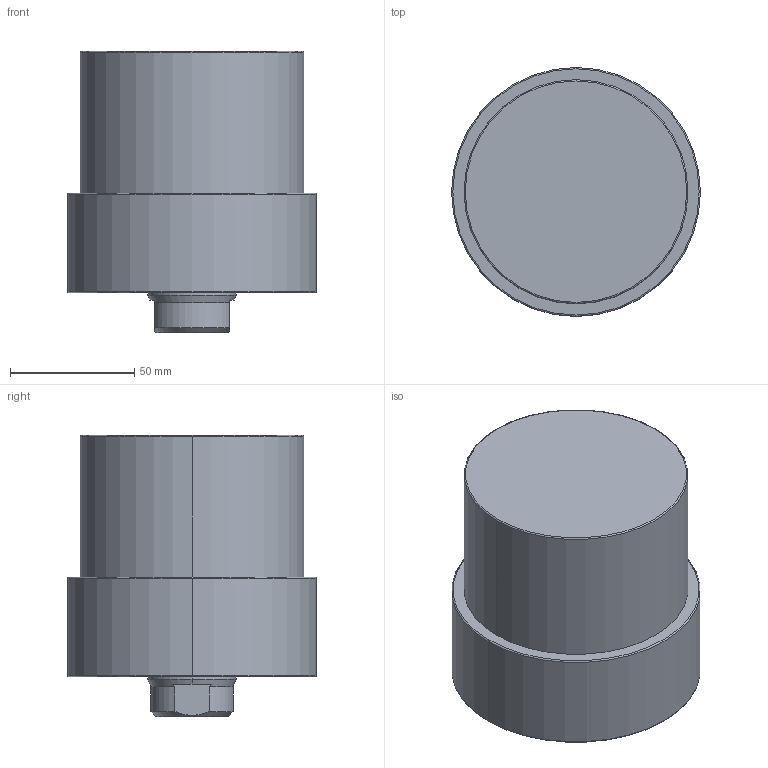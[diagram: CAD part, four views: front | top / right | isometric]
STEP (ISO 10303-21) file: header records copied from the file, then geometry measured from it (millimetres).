
FILE_DESCRIPTION (( 'STEP AP203' ), '1' );
FILE_NAME ('CLLU-090CA-035.STEP', '2020-01-11T00:31:30', ( '' ), ( '' ), 'SwSTEP 2.0', 'SolidWorks 2015', '' );
FILE_SCHEMA (( 'CONFIG_CONTROL_DESIGN' ));
Length unit declared in the file: millimetre
Products named in the file (1): CLLU-090CA-035
Bounding box: 100 x 100 x 113 mm (x, y, z)
Volume: 672327.1 mm3; surface area: 50965.8 mm2
Topology: 1 solids, 1 shells, 62 faces, 140 edges, 79 vertices
Faces by surface type: cone 24, cylinder 22, plane 10, torus 6
Entity records: 1767 total; most frequent: DIRECTION 320, CARTESIAN_POINT 316, ORIENTED_EDGE 260, AXIS2_PLACEMENT_3D 135, EDGE_CURVE 130, VERTEX_POINT 79, CIRCLE 72, EDGE_LOOP 71
